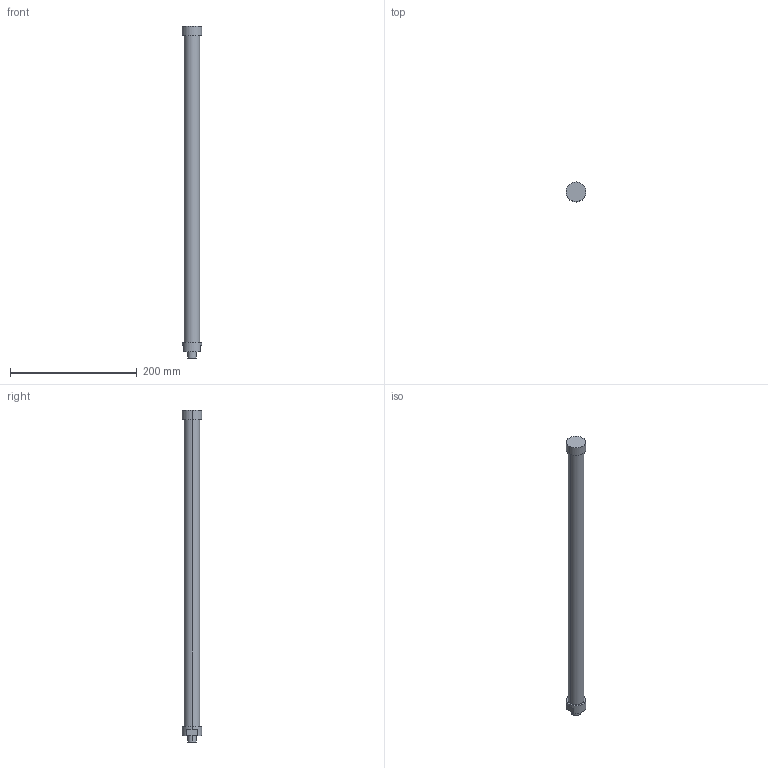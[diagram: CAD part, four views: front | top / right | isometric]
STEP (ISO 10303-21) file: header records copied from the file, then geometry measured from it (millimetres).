
FILE_DESCRIPTION(('STEP AP214'),'1');
FILE_NAME('C:/Users/Autocad/Desktop/L524-C300S1-FN.stp','2014-02-10T10:54:35',(' '),(' '),'Spatial InterOp 3D',' ',' ');
FILE_SCHEMA(('automotive_design'));
Length unit declared in the file: metre
Products named in the file (2): 1; 2
Bounding box: 31 x 31 x 524 mm (x, y, z)
Volume: 260797 mm3; surface area: 43980.2 mm2
Topology: 1 solids, 4 shells, 23 faces, 54 edges, 40 vertices
Faces by surface type: cylinder 12, plane 11
Entity records: 916 total; most frequent: DIRECTION 136, CARTESIAN_POINT 119, ORIENTED_EDGE 96, AXIS2_PLACEMENT_3D 57, EDGE_CURVE 54, VERTEX_POINT 40, CIRCLE 32, EDGE_LOOP 28
